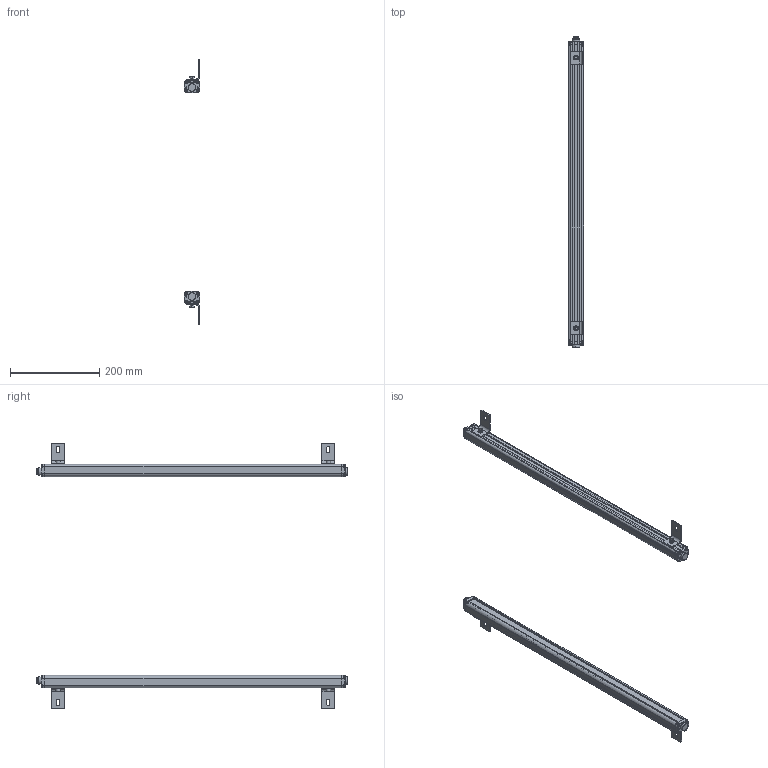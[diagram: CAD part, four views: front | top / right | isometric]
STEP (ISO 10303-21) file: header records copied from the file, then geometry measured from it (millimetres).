
FILE_DESCRIPTION (( 'STEP AP214' ), '1' );
FILE_NAME ('elg6410.STEP', '2018-03-08T11:17:39', ( '' ), ( '' ), 'SwSTEP 2.0', 'SolidWorks 2017', '' );
FILE_SCHEMA (( 'AUTOMOTIVE_DESIGN' ));
Length unit declared in the file: millimetre
Products named in the file (11): hkct1-6410; elgdg03-6410; elg6410; elgw-6410; hk-6410; dlx-6410; bz1-6410; czzj-6410; glgdg-6410; lgp-6410; lx-6410
Assembly tree (40 placements, depth 2):
  elg6410
    elgw-6410  x2
    bz1-6410  x2
    lgp-6410  x2
    glgdg-6410  x2
    elgdg03-6410  x2
    hkct1-6410  x2
    lx-6410  x16
    hk-6410  x4
    czzj-6410  x4
    dlx-6410  x4
Bounding box: 34.7 x 697.6 x 594 mm (x, y, z)
Volume: 511118.4 mm3; surface area: 535479.9 mm2
Topology: 40 solids, 40 shells, 2512 faces, 6536 edges, 4036 vertices
Faces by surface type: cylinder 1208, plane 688, bspline 616
Entity records: 150113 total; most frequent: CARTESIAN_POINT 131612, ORIENTED_EDGE 3860, DIRECTION 3602, EDGE_CURVE 1930, AXIS2_PLACEMENT_3D 1373, VERTEX_POINT 1234, EDGE_LOOP 900, LINE 856
